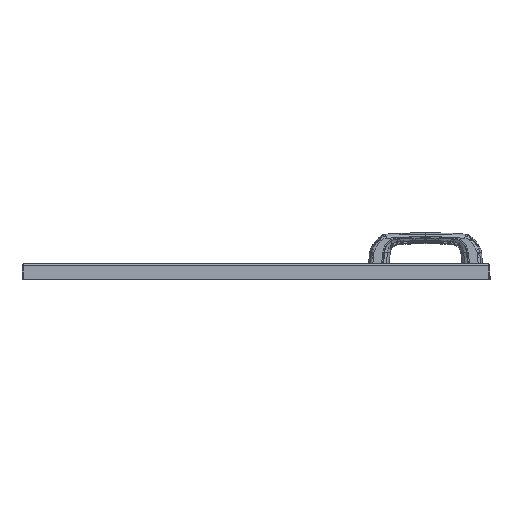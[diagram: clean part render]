
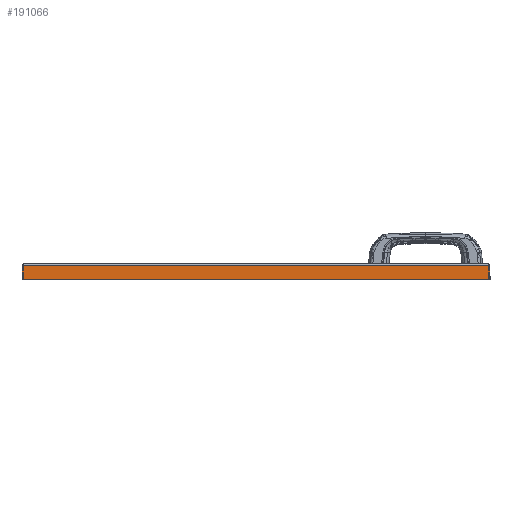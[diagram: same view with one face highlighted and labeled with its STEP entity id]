
A CAD part, left-side view. The second image highlights one B-rep face of the part: STEP entity #191066.
In plain terms, the highlighted planar face has unit normal (-1, 0, 0).
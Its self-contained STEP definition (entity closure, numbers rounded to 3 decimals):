
#183636=CARTESIAN_POINT(' ',(0.,597.,-2.3));
#183637=VERTEX_POINT(' ',#183636);
#183651=CARTESIAN_POINT(' ',(0.,597.,-2.3));
#183656=DIRECTION(' ',(0.,-1.,0.));
#183661=VECTOR(' ',#183656,1.);
#183666=LINE('',#183651,#183661);
#183671=CARTESIAN_POINT(' ',(0.,0.,-2.3));
#183672=VERTEX_POINT(' ',#183671);
#183676=EDGE_CURVE(' ',#183637,#183672,#183666,.T.);
#190926=DIRECTION(' ',(-1.,-0.,-0.));
#190931=CARTESIAN_POINT(' ',(0.,0.,-2.3));
#190936=DIRECTION(' ',(-0.,1.,0.));
#190941=AXIS2_PLACEMENT_3D(' ',#190931,#190926,#190936);
#190946=PLANE('NONE',#190941);
#190951=CARTESIAN_POINT(' ',(0.,0.,-20.));
#190956=DIRECTION(' ',(0.,0.,1.));
#190961=VECTOR(' ',#190956,1.);
#190966=LINE('',#190951,#190961);
#190971=CARTESIAN_POINT(' ',(0.,0.,-20.));
#190972=VERTEX_POINT(' ',#190971);
#190976=EDGE_CURVE(' ',#190972,#183672,#190966,.T.);
#190981=ORIENTED_EDGE(' ',*,*,#190976,.T.);
#190986=ORIENTED_EDGE(' ',*,*,#183676,.F.);
#190991=CARTESIAN_POINT(' ',(0.,597.,-20.));
#190996=DIRECTION(' ',(0.,0.,1.));
#191001=VECTOR(' ',#190996,1.);
#191006=LINE('',#190991,#191001);
#191011=CARTESIAN_POINT(' ',(0.,597.,-20.));
#191012=VERTEX_POINT(' ',#191011);
#191016=EDGE_CURVE(' ',#191012,#183637,#191006,.T.);
#191021=ORIENTED_EDGE(' ',*,*,#191016,.F.);
#191026=CARTESIAN_POINT(' ',(0.,597.,-20.));
#191031=DIRECTION(' ',(0.,-1.,0.));
#191036=VECTOR(' ',#191031,1.);
#191041=LINE('',#191026,#191036);
#191046=EDGE_CURVE(' ',#191012,#190972,#191041,.T.);
#191051=ORIENTED_EDGE(' ',*,*,#191046,.T.);
#191056=EDGE_LOOP(' ',(#190981,#190986,#191021,#191051));
#191061=FACE_OUTER_BOUND(' ',#191056,.T.);
#191066=ADVANCED_FACE('NONE',(#191061),#190946,.T.);
